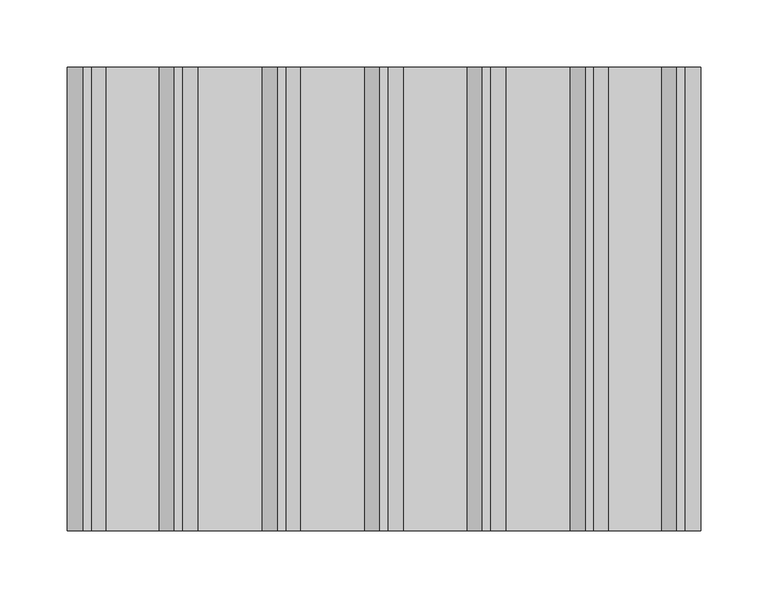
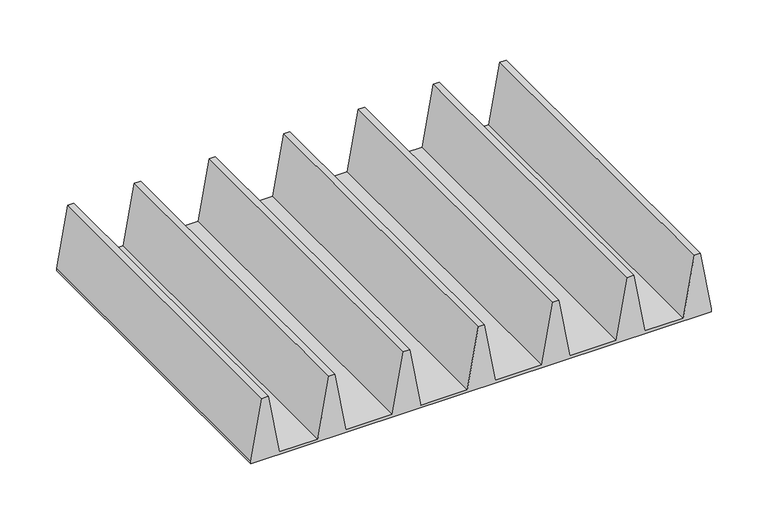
"""IFC4 building model written with IfcOpenShell, lengths in millimetres: furniture geometry."""

from ifc_helpers import new_model, si_unit, frame, origin, place, context, project, spatial, polyline, outline, extrude, source, transform, mapped, element, save


def furniture_ee728fe0(model_context):
    return source(origin(), model_context, "Body", "SweptSolid", [
        extrude(outline(polyline([(1606.4507812, -234.8826517), (1606.4507812, 235.0173483), (1609.4769531, 235.0173483), (1673.1257813, 223.7943426), (1673.1257813, 217.4443426), (1609.4769531, 206.221337), (1609.4769531, 166.865354), (1673.1257813, 155.6423483), (1673.1257813, 149.2923483), (1609.4769531, 138.0693426), (1609.4769531, 90.665354), (1673.1257813, 79.4423483), (1673.1257813, 73.0923483), (1609.4769531, 61.8693426), (1609.4769531, 14.465354), (1673.1257813, 3.2423483), (1673.1257813, -3.1076517), (1609.4769531, -14.3306574), (1609.4769531, -61.734646), (1673.1257813, -72.9576517), (1673.1257813, -79.3076517), (1609.4769531, -90.5306574), (1609.4769531, -137.934646), (1673.1257813, -149.1576517), (1673.1257813, -155.5076517), (1609.4769531, -166.7306574), (1609.4769531, -206.0866403), (1673.1257813, -217.309646), (1673.1257813, -223.659646), (1609.4769531, -234.8826517), (1606.4507812, -234.8826517)])), frame((0.0, -171.831, 0.0), z_axis=(0.0, 1.0, 0.0), x_axis=(0.0, 0.0, 1.0)), (0.0, 0.0, 1.0), 343.662),
    ])


if __name__ == "__main__":
    model = new_model("IFC4")
    model_context = context("Model", 3, world=origin())
    ifc_project = project(units=[si_unit("LENGTHUNIT", "METRE", prefix="MILLI")], contexts=[model_context])
    site = spatial("IfcSite", under=ifc_project)
    building = spatial("IfcBuilding", under=site)
    placement = place(None, origin())
    furniture_shape = furniture_ee728fe0(model_context)
    element("IfcFurniture", 1, ObjectType="HermanMiller_CoStruc_CO242_Subdivider Vane : 2 5/8\"Hx13 3/4\"D x 18 1/2\"W", at=placement, inside=building, context=model_context, shape_type="MappedRepresentation", body=[
        mapped(furniture_shape, transform((0.0, 0.0, 0.0), x_axis=(1.0, 0.0, 0.0), y_axis=(0.0, 1.0, 0.0), z_axis=(0.0, 0.0, 1.0))),
    ])
    save(model, "model.ifc")
